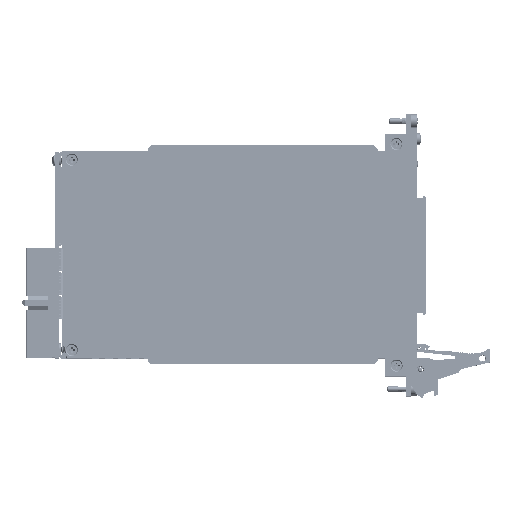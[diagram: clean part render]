
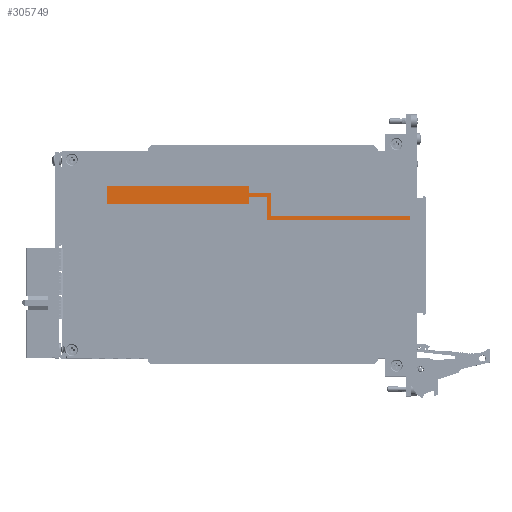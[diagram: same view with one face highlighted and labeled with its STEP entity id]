
A CAD part, top view. The second image highlights one B-rep face of the part: STEP entity #305749.
In plain terms, the highlighted planar face has unit normal (0, 0, 1).
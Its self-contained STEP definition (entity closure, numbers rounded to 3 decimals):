
#13208 = CARTESIAN_POINT ( 'NONE',  ( 4.7, 89.7, 0.01 ) ) ;
#29047 = VECTOR ( 'NONE', #296811, 1000. ) ;
#33600 = AXIS2_PLACEMENT_3D ( 'NONE', #445110, #200883, #485970 ) ;
#39825 = EDGE_LOOP ( 'NONE', ( #320579, #90682, #303359, #293129, #333695, #77928, #205942, #418126, #46602, #97151, #271442, #355878 ) ) ;
#45540 = EDGE_CURVE ( 'NONE', #466762, #353415, #137061, .T. ) ;
#46602 = ORIENTED_EDGE ( 'NONE', *, *, #147252, .T. ) ;
#57319 = CARTESIAN_POINT ( 'NONE',  ( 0., 81.5, 0.01 ) ) ;
#66094 = VERTEX_POINT ( 'NONE', #421525 ) ;
#75607 = DIRECTION ( 'NONE',  ( 0., -1., 0. ) ) ;
#77928 = ORIENTED_EDGE ( 'NONE', *, *, #130588, .T. ) ;
#79755 = LINE ( 'NONE', #481754, #379544 ) ;
#86724 = EDGE_CURVE ( 'NONE', #141541, #173378, #177217, .T. ) ;
#90682 = ORIENTED_EDGE ( 'NONE', *, *, #198285, .T. ) ;
#91394 = CARTESIAN_POINT ( 'NONE',  ( 7.8, 17., 0.01 ) ) ;
#94663 = VERTEX_POINT ( 'NONE', #500216 ) ;
#97151 = ORIENTED_EDGE ( 'NONE', *, *, #45540, .T. ) ;
#106727 = EDGE_CURVE ( 'NONE', #353415, #66094, #79755, .T. ) ;
#108851 = LINE ( 'NONE', #230068, #312870 ) ;
#130532 = VECTOR ( 'NONE', #259771, 1000. ) ;
#130588 = EDGE_CURVE ( 'NONE', #379339, #94663, #500541, .T. ) ;
#132393 = VERTEX_POINT ( 'NONE', #510096 ) ;
#133019 = CARTESIAN_POINT ( 'NONE',  ( 15.2, 89.7, 0.01 ) ) ;
#137061 = LINE ( 'NONE', #237721, #353936 ) ;
#137300 = LINE ( 'NONE', #133019, #29047 ) ;
#141541 = VERTEX_POINT ( 'NONE', #57319 ) ;
#142085 = DIRECTION ( 'NONE',  ( 1., 0., 0. ) ) ;
#147252 = EDGE_CURVE ( 'NONE', #205843, #466762, #108851, .T. ) ;
#150643 = VECTOR ( 'NONE', #308398, 1000. ) ;
#152667 = CARTESIAN_POINT ( 'NONE',  ( 0., 81.5, 0.01 ) ) ;
#171714 = CARTESIAN_POINT ( 'NONE',  ( 0., 17., 0.01 ) ) ;
#173378 = VERTEX_POINT ( 'NONE', #171714 ) ;
#177044 = DIRECTION ( 'NONE',  ( 1., 0., 0. ) ) ;
#177217 = LINE ( 'NONE', #202588, #476802 ) ;
#180829 = CARTESIAN_POINT ( 'NONE',  ( 7.8, 81.5, 0.01 ) ) ;
#198285 = EDGE_CURVE ( 'NONE', #173378, #132393, #432488, .T. ) ;
#200883 = DIRECTION ( 'NONE',  ( 0., 0., -1. ) ) ;
#202588 = CARTESIAN_POINT ( 'NONE',  ( 0., 17., 0.01 ) ) ;
#205843 = VERTEX_POINT ( 'NONE', #365552 ) ;
#205852 = VECTOR ( 'NONE', #376661, 1000. ) ;
#205942 = ORIENTED_EDGE ( 'NONE', *, *, #475365, .T. ) ;
#215671 = VECTOR ( 'NONE', #142085, 1000. ) ;
#224016 = CARTESIAN_POINT ( 'NONE',  ( 0., 17., 0.01 ) ) ;
#230068 = CARTESIAN_POINT ( 'NONE',  ( 13.6, 91.3, 0.01 ) ) ;
#237721 = CARTESIAN_POINT ( 'NONE',  ( 3.1, 91.3, 0.01 ) ) ;
#240136 = PLANE ( 'NONE',  #33600 ) ;
#251790 = EDGE_CURVE ( 'NONE', #337926, #205843, #442948, .T. ) ;
#259771 = DIRECTION ( 'NONE',  ( -1., 0., 0. ) ) ;
#267455 = CARTESIAN_POINT ( 'NONE',  ( 4.7, 81.5, 0.01 ) ) ;
#271084 = DIRECTION ( 'NONE',  ( 0., -1., 0. ) ) ;
#271442 = ORIENTED_EDGE ( 'NONE', *, *, #106727, .T. ) ;
#289555 = VERTEX_POINT ( 'NONE', #180829 ) ;
#290306 = EDGE_CURVE ( 'NONE', #482605, #379339, #380287, .T. ) ;
#293129 = ORIENTED_EDGE ( 'NONE', *, *, #527017, .T. ) ;
#296811 = DIRECTION ( 'NONE',  ( 0., 1., 0. ) ) ;
#301466 = LINE ( 'NONE', #91394, #205852 ) ;
#303359 = ORIENTED_EDGE ( 'NONE', *, *, #310245, .T. ) ;
#305749 = ADVANCED_FACE ( 'NONE', ( #435545 ), #240136, .F. ) ;
#306639 = CARTESIAN_POINT ( 'NONE',  ( 4.7, 81.5, 0.01 ) ) ;
#308398 = DIRECTION ( 'NONE',  ( 0., 1., 0. ) ) ;
#310245 = EDGE_CURVE ( 'NONE', #132393, #289555, #301466, .T. ) ;
#312870 = VECTOR ( 'NONE', #271084, 1000. ) ;
#320579 = ORIENTED_EDGE ( 'NONE', *, *, #86724, .T. ) ;
#333695 = ORIENTED_EDGE ( 'NONE', *, *, #290306, .T. ) ;
#337926 = VERTEX_POINT ( 'NONE', #340310 ) ;
#340310 = CARTESIAN_POINT ( 'NONE',  ( 15.2, 154.4, 0.01 ) ) ;
#353415 = VERTEX_POINT ( 'NONE', #487639 ) ;
#353936 = VECTOR ( 'NONE', #360775, 1000. ) ;
#355878 = ORIENTED_EDGE ( 'NONE', *, *, #408066, .T. ) ;
#357902 = VECTOR ( 'NONE', #494947, 1000. ) ;
#360775 = DIRECTION ( 'NONE',  ( -1., 0., 0. ) ) ;
#365552 = CARTESIAN_POINT ( 'NONE',  ( 13.6, 154.4, 0.01 ) ) ;
#376661 = DIRECTION ( 'NONE',  ( 0., 1., 0. ) ) ;
#378538 = CARTESIAN_POINT ( 'NONE',  ( 13.6, 91.3, 0.01 ) ) ;
#379339 = VERTEX_POINT ( 'NONE', #522364 ) ;
#379544 = VECTOR ( 'NONE', #75607, 1000. ) ;
#380287 = LINE ( 'NONE', #267455, #150643 ) ;
#392411 = VECTOR ( 'NONE', #177044, 1000. ) ;
#407440 = VECTOR ( 'NONE', #437696, 1000. ) ;
#408066 = EDGE_CURVE ( 'NONE', #66094, #141541, #515733, .T. ) ;
#418126 = ORIENTED_EDGE ( 'NONE', *, *, #251790, .T. ) ;
#421525 = CARTESIAN_POINT ( 'NONE',  ( 3.1, 81.5, 0.01 ) ) ;
#432488 = LINE ( 'NONE', #224016, #215671 ) ;
#435545 = FACE_OUTER_BOUND ( 'NONE', #39825, .T. ) ;
#437696 = DIRECTION ( 'NONE',  ( -1., 0., 0. ) ) ;
#442948 = LINE ( 'NONE', #503792, #130532 ) ;
#445110 = CARTESIAN_POINT ( 'NONE',  ( 0., 81.5, 0.01 ) ) ;
#446838 = DIRECTION ( 'NONE',  ( 0., -1., 0. ) ) ;
#466204 = LINE ( 'NONE', #496701, #357902 ) ;
#466762 = VERTEX_POINT ( 'NONE', #378538 ) ;
#475365 = EDGE_CURVE ( 'NONE', #94663, #337926, #137300, .T. ) ;
#476802 = VECTOR ( 'NONE', #446838, 1000. ) ;
#481754 = CARTESIAN_POINT ( 'NONE',  ( 3.1, 81.5, 0.01 ) ) ;
#482605 = VERTEX_POINT ( 'NONE', #306639 ) ;
#485970 = DIRECTION ( 'NONE',  ( -1., 0., 0. ) ) ;
#487639 = CARTESIAN_POINT ( 'NONE',  ( 3.1, 91.3, 0.01 ) ) ;
#494947 = DIRECTION ( 'NONE',  ( -1., 0., 0. ) ) ;
#496701 = CARTESIAN_POINT ( 'NONE',  ( 4.7, 81.5, 0.01 ) ) ;
#500216 = CARTESIAN_POINT ( 'NONE',  ( 15.2, 89.7, 0.01 ) ) ;
#500541 = LINE ( 'NONE', #13208, #392411 ) ;
#503792 = CARTESIAN_POINT ( 'NONE',  ( 15.2, 154.4, 0.01 ) ) ;
#510096 = CARTESIAN_POINT ( 'NONE',  ( 7.8, 17., 0.01 ) ) ;
#515733 = LINE ( 'NONE', #152667, #407440 ) ;
#522364 = CARTESIAN_POINT ( 'NONE',  ( 4.7, 89.7, 0.01 ) ) ;
#527017 = EDGE_CURVE ( 'NONE', #289555, #482605, #466204, .T. ) ;
